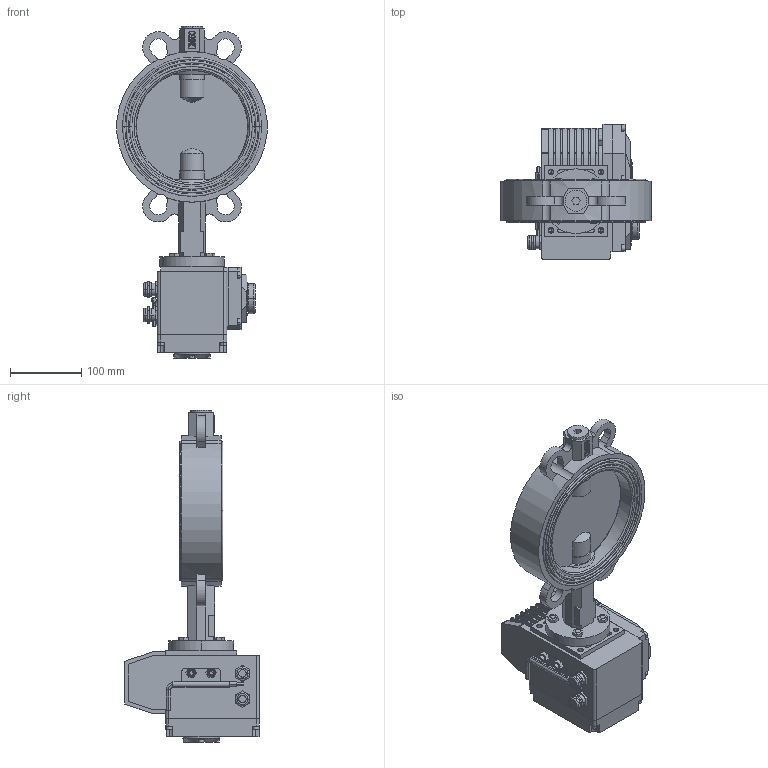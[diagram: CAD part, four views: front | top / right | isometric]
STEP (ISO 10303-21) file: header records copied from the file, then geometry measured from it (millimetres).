
FILE_DESCRIPTION((''),'2;1');
FILE_NAME('VBS_EAR_T_ASM','2025-02-22T',('AMD'),(''),'PRO/ENGINEER BY PARAMETRIC TECHNOLOGY CORPORATION, 2008020','PRO/ENGINEER BY PARAMETRIC TECHNOLOGY CORPORATION, 2008020','');
FILE_SCHEMA(('CONFIG_CONTROL_DESIGN'));
Length unit declared in the file: millimetre
Products named in the file (24): KORPUS; REZ; DISK; SHTIR_1; ZAGLUSHKA; O-RING; SHTIR_2; SHAIBA_RAZREZ; SHAIBA; KOLCO_30_GOST13943; VTULKA; MANZET_REZ; SB_ASM; B-7798-M8-25; DET_1; V-11738-M5; V-11738-M4; DET_2; KREPLENIE; KLUCH; DET_3; G-5915-M8; ELECTROPRIVOD_ASM; VBS_EAR_T_ASM
Assembly tree (45 placements, depth 3):
  VBS_EAR_T_ASM
    SB_ASM
      KORPUS
      REZ
      DISK
      SHTIR_1
      ZAGLUSHKA
      O-RING  x2
      SHTIR_2
      SHAIBA_RAZREZ
      SHAIBA  x2
      KOLCO_30_GOST13943
      VTULKA  x5
      MANZET_REZ
    B-7798-M8-25  x4
    ELECTROPRIVOD_ASM
      DET_1
      V-11738-M5  x10
      V-11738-M4  x4
      DET_2
      KREPLENIE
      KLUCH
      DET_3
      G-5915-M8  x2
Bounding box: 211.22 x 190 x 467.5 mm (x, y, z)
Volume: 3676039.4 mm3; surface area: 590161.7 mm2
Topology: 43 solids, 82 shells, 1721 faces, 4445 edges, 2919 vertices
Faces by surface type: plane 1105, cylinder 480, cone 98, torus 38
Entity records: 44886 total; most frequent: CARTESIAN_POINT 8340, DIRECTION 7655, ORIENTED_EDGE 7338, EDGE_CURVE 3717, VECTOR 2675, LINE 2675, AXIS2_PLACEMENT_3D 2490, VERTEX_POINT 2457
